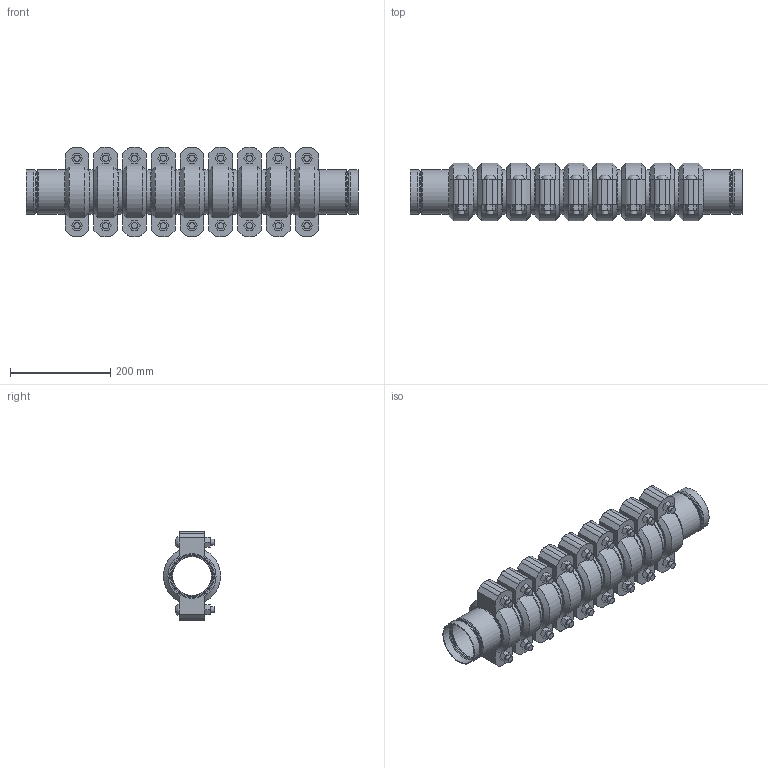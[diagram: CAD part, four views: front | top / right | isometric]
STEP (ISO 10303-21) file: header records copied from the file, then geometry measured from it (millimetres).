
FILE_DESCRIPTION(/* description */ ('VIC STRENGTHIN 100 EXPANSION JOINT 9 COUPLINGS COMPRESSED STYLE E155 (ST1)','CAx-IF Rec.Pracs.---Representation and Presentation of Product Manufacturing Information (PMI)---4.0---2014-10-13'),/* implementation_level */ '2;1');
FILE_NAME(/* name */ 'C:\Users\Vjadhav\AppData\Roaming\Autodesk\ApplicationPlugins\Victaulic.Temp\A705\Victaulic_SS-StrengThin 100_Expansion Joint_Compressed_9 Couplings_Style E155 (ST1)_3 (80).stp',/* time_stamp */ '2021-07-23T12:37:23+05:00',/* author */ ('kkamble'),/* organization */ ('Victaulic'),/* preprocessor_version */ 'ST-DEVELOPER v17.2',/* originating_system */ 'Autodesk Inventor 2019',/* authorisation */ '');
FILE_SCHEMA (('AP242_MANAGED_MODEL_BASED_3D_ENGINEERING_MIM_LF { 1 0 10303 442 1 1 4 }'));
Length unit declared in the file: inch
Products named in the file (4): E155-03.0; E494G-03.0; Nipple-03.0; 075-03.0
Assembly tree (19 placements, depth 2):
  E155-03.0
    E494G-03.0  x2
    Nipple-03.0  x8
    075-03.0  x9
Bounding box: 661.92 x 113.88 x 177.8 mm (x, y, z)
Volume: 3665757.7 mm3; surface area: 930111.2 mm2
Topology: 19 solids, 37 shells, 641 faces, 1605 edges, 1132 vertices
Faces by surface type: plane 366, cylinder 185, cone 40, torus 32, bspline 18
Full cylindrical faces by diameter (mm): 12.7 x36, 14.605 x18, 77.927 x8, 79.985 x2, 81.737 x2, 83.185 x2, 84.938 x18, 85.7 x6, 88.9 x39
Entity records: 3711 total; most frequent: DIRECTION 663, CARTESIAN_POINT 651, ORIENTED_EDGE 536, AXIS2_PLACEMENT_3D 283, EDGE_CURVE 268, VERTEX_POINT 193, CIRCLE 163, EDGE_LOOP 123
